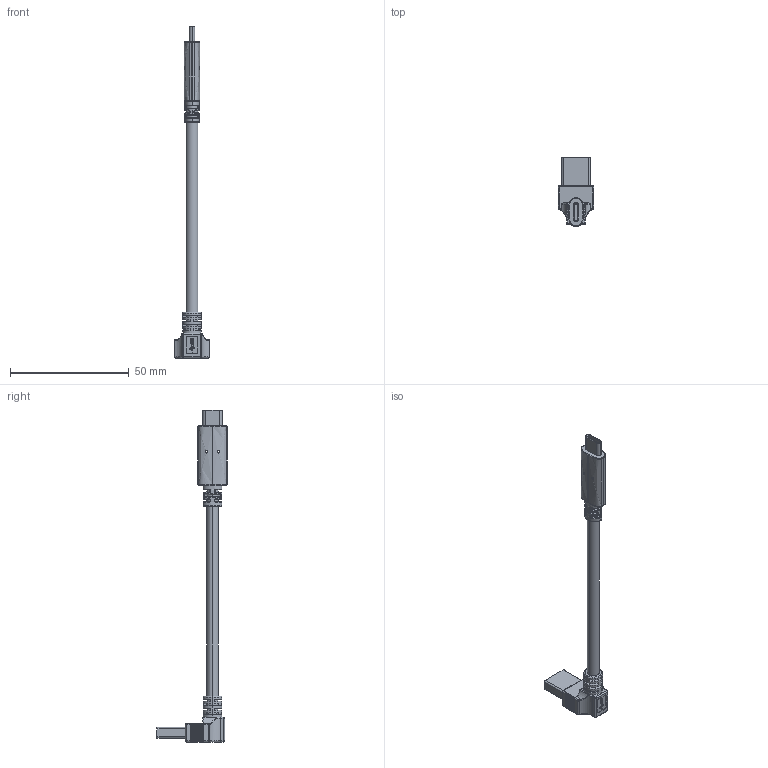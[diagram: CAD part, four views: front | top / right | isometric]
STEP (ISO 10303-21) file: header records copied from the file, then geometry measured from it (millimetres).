
FILE_DESCRIPTION (( 'STEP AP203' ), '1' );
FILE_NAME ('RR-ADCS-XXGRC_202302.STEP', '2023-02-17T05:21:24', ( '' ), ( '' ), 'SwSTEP 2.0', 'SolidWorks 2019', '' );
FILE_SCHEMA (( 'CONFIG_CONTROL_DESIGN' ));
Length unit declared in the file: millimetre
Products named in the file (1): RR-ADCS-XXGRC_202302
Bounding box: 15 x 29.52 x 139.95 mm (x, y, z)
Volume: 6239.9 mm3; surface area: 4641.5 mm2
Topology: 1 solids, 1 shells, 415 faces, 1084 edges, 680 vertices
Faces by surface type: cylinder 160, plane 153, bspline 63, torus 19, sphere 16, cone 4
Entity records: 17208 total; most frequent: CARTESIAN_POINT 7754, ORIENTED_EDGE 2148, DIRECTION 1714, EDGE_CURVE 1074, VERTEX_POINT 680, AXIS2_PLACEMENT_3D 624, LINE 466, VECTOR 466
